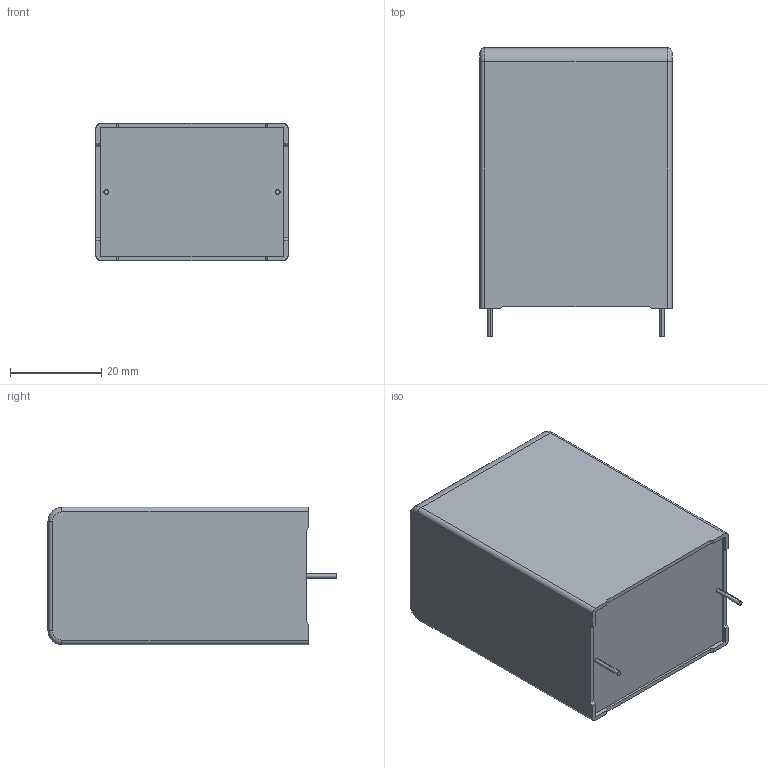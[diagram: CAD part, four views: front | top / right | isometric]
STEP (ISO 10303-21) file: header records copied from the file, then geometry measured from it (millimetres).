
FILE_DESCRIPTION (( 'STEP AP203' ), '1' );
FILE_NAME ('DC_Link_30x57x42_2pins.step', '2017-04-03T16:00:08', ( 'work' ), ( 'Hewlett-Packard Company' ), 'SwSTEP 2.0', 'SolidWorks 2017', '' );
FILE_SCHEMA (( 'CONFIG_CONTROL_DESIGN' ));
Length unit declared in the file: millimetre
Products named in the file (1): DC_Link_30x57x42_2pins
Bounding box: 42 x 63 x 30 mm (x, y, z)
Volume: 70427 mm3; surface area: 10565.6 mm2
Topology: 1 solids, 1 shells, 116 faces, 307 edges, 202 vertices
Faces by surface type: plane 80, cylinder 16, bspline 16, torus 4
Entity records: 4332 total; most frequent: CARTESIAN_POINT 1450, ORIENTED_EDGE 614, DIRECTION 513, EDGE_CURVE 307, VECTOR 239, LINE 239, VERTEX_POINT 202, AXIS2_PLACEMENT_3D 137
